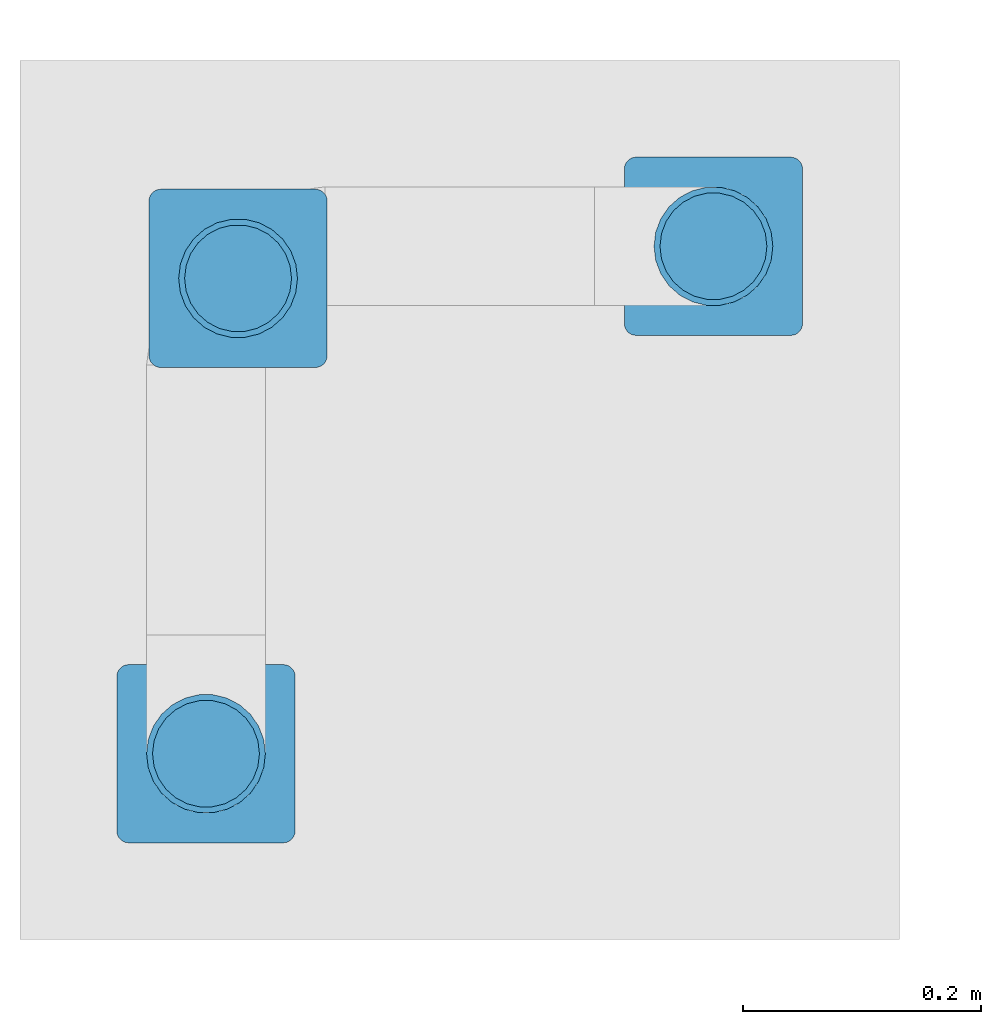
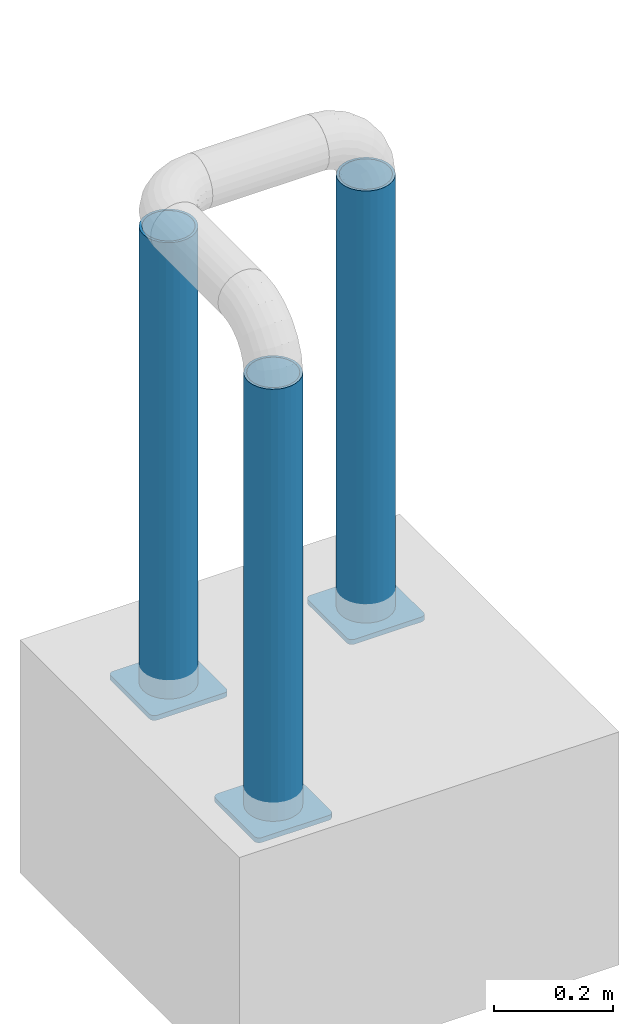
# One storey, part 68 of 418: 6 building element parts, 3 discrete accessories, 3 elements without a shape of their own.
"""IFC2X3 building model written with IfcOpenShell, lengths in millimetres."""

import ifcopenshell
import ifcopenshell.guid

model = None  # the IFC model being written
_history = None  # IfcOwnerHistory: only IFC2X3 demands one
_inside = {}  # id of a spatial element -> (the spatial element, [elements in it])
_under = {}  # id of a project, library or spatial element -> (it, [spatial elements below it])
_declared = {}  # id of a project -> (the project, [libraries it declares])
_typed = {}  # id of a type object -> (the type object, [elements of that type])
_made_of = {}  # id of a material, layer set ... -> (it, [elements and type objects made of it])


def new_model(schema):
    """Start an empty IFC model of exactly this schema.

    Asked for "IFC4X3", IfcOpenShell would pick the latest addendum, in which some entities
    have other attributes; the version numbers below select the first issue.
    IFC2X3 requires an IfcOwnerHistory on every rooted entity: one is made here for all.
    """
    global model, _history
    if schema == "IFC4X3":
        model = ifcopenshell.file(schema_version=(4, 3, 0, 0))
    else:
        model = ifcopenshell.file(schema=schema)
    _inside.clear()
    _under.clear()
    _declared.clear()
    _typed.clear()
    _made_of.clear()
    _history = None
    if model.schema == "IFC2X3":
        org = make("IfcOrganization", Name="unknown")
        user = make(
            "IfcPersonAndOrganization",
            ThePerson=make("IfcPerson", FamilyName="unknown"),
            TheOrganization=org,
        )
        app = make(
            "IfcApplication",
            ApplicationDeveloper=org,
            Version="unknown",
            ApplicationFullName="unknown",
            ApplicationIdentifier="unknown",
        )
        _history = make(
            "IfcOwnerHistory",
            OwningUser=user,
            OwningApplication=app,
            ChangeAction="ADDED",
            CreationDate=0,
        )
    return model


def make(cls, **values):
    """One entity of the class cls with the attributes given. An attribute that is None is left unset."""
    return model.create_entity(
        cls, **{name: value for name, value in values.items() if value is not None}
    )


def entity(cls, *values):
    """Any entity or typed value of the class cls, its attributes in the order of the schema. None: left unset."""
    e = model.create_entity(cls)
    for i, value in enumerate(values):
        if value is not None:
            e[i] = value
    return e


def rooted(cls, **values):
    """An entity with a GlobalId (a new one), such as an element, a storey or a relation."""
    return make(cls, GlobalId=ifcopenshell.guid.new(), OwnerHistory=_history, **values)


def si_unit(unit_type, name, prefix=None):
    """IfcSIUnit, for example si_unit("LENGTHUNIT", "METRE", prefix="MILLI")."""
    return make("IfcSIUnit", UnitType=unit_type, Prefix=prefix, Name=name)


def converted_unit(unit_type, name, factor, base, dimensions=None, offset=None):
    """IfcConversionBasedUnit, such as the inch: factor (a typed value) times the base unit."""
    return make(
        "IfcConversionBasedUnit"
        if offset is None
        else "IfcConversionBasedUnitWithOffset",
        ConversionOffset=offset,
        Dimensions=None
        if dimensions is None
        else entity("IfcDimensionalExponents", *dimensions),
        UnitType=unit_type,
        Name=name,
        ConversionFactor=make(
            "IfcMeasureWithUnit", ValueComponent=factor, UnitComponent=base
        ),
    )


def derived_unit(unit_type, elements):
    """IfcDerivedUnit: a product of units, each with its exponent."""
    return make(
        "IfcDerivedUnit",
        Elements=[
            make("IfcDerivedUnitElement", Unit=unit, Exponent=power)
            for unit, power in elements
        ],
        UnitType=unit_type,
    )


def money_unit(currency):
    """IfcMonetaryUnit."""
    return make("IfcMonetaryUnit", Currency=currency)


def assignment(units):
    """IfcUnitAssignment: the units of a project."""
    return None if units is None else make("IfcUnitAssignment", Units=units)


def point(xyz):
    """IfcCartesianPoint."""
    return None if xyz is None else make("IfcCartesianPoint", Coordinates=xyz)


def direction(xyz):
    """IfcDirection."""
    return None if xyz is None else make("IfcDirection", DirectionRatios=xyz)


def frame(location, z_axis=None, x_axis=None):
    """IfcAxis2Placement3D, a coordinate frame: its origin and axes. An axis left out is left unset."""
    return make(
        "IfcAxis2Placement3D",
        Location=point(location),
        Axis=direction(z_axis),
        RefDirection=direction(x_axis),
    )


def frame_2d(location, x_axis=None):
    """IfcAxis2Placement2D, a coordinate frame in the plane: its origin and x axis."""
    return make(
        "IfcAxis2Placement2D", Location=point(location), RefDirection=direction(x_axis)
    )


def origin_with_axes():
    """The frame at (0, 0, 0) with the z axis (0, 0, 1) and the x axis (1, 0, 0) written out."""
    return frame((0.0, 0.0, 0.0), z_axis=(0.0, 0.0, 1.0), x_axis=(1.0, 0.0, 0.0))


def origin_2d_with_axis():
    """The frame at (0, 0) in the plane with the x axis (1, 0) written out."""
    return frame_2d((0.0, 0.0), x_axis=(1.0, 0.0))


def place(relative_to, where):
    """IfcLocalPlacement: puts the frame where relative to a parent placement (None: the world)."""
    return make(
        "IfcLocalPlacement", PlacementRelTo=relative_to, RelativePlacement=where
    )


def context(
    kind, dimensions, precision=None, world=None, true_north=None, identifier=None
):
    """IfcGeometricRepresentationContext, for example the 3D "Model" context."""
    return make(
        "IfcGeometricRepresentationContext",
        ContextIdentifier=identifier,
        ContextType=kind,
        CoordinateSpaceDimension=dimensions,
        Precision=precision,
        WorldCoordinateSystem=world,
        TrueNorth=true_north,
    )


def subcontext(parent, identifier, kind, view, scale=None):
    """IfcGeometricRepresentationSubContext, for example "Body" below "Model"."""
    return make(
        "IfcGeometricRepresentationSubContext",
        ContextIdentifier=identifier,
        ContextType=kind,
        ParentContext=parent,
        TargetScale=scale,
        TargetView=view,
    )


def project(units=None, contexts=None):
    """IfcProject with its units and contexts."""
    return rooted(
        "IfcProject",
        Name="project",
        RepresentationContexts=contexts,
        UnitsInContext=assignment(units),
    )


def spatial(cls, under=None, at=None, **own):
    """A site, building, storey or space (cls), placed at a placement, below another one or the project."""
    s = rooted(cls, ObjectPlacement=at, **own)
    if under is not None:
        _under.setdefault(under.id(), (under, []))[1].append(s)
    return s


def polyline(points):
    """IfcPolyline through the points."""
    return make("IfcPolyline", Points=[point(p) for p in points])


def circle_curve(where, radius):
    """IfcCircle in the frame where."""
    return make("IfcCircle", Position=where, Radius=radius)


def parameter(value):
    """IfcParameterValue: where a trimmed curve begins or ends, as a parameter of its basis curve."""
    return model.create_entity("IfcParameterValue", value)


def trimmed(basis, trim1, trim2, sense, master):
    """IfcTrimmedCurve: the piece of a basis curve between two trims."""
    return make(
        "IfcTrimmedCurve",
        BasisCurve=basis,
        Trim1=trim1,
        Trim2=trim2,
        SenseAgreement=sense,
        MasterRepresentation=master,
    )


def segment(curve, same_sense, transition):
    """IfcCompositeCurveSegment."""
    return make(
        "IfcCompositeCurveSegment",
        Transition=transition,
        SameSense=same_sense,
        ParentCurve=curve,
    )


def composite_curve(segments, self_intersect=None):
    """IfcCompositeCurve: segments joined end to end."""
    return make("IfcCompositeCurve", Segments=segments, SelfIntersect=self_intersect)


def profile(cls, at=None, kind="AREA", **sizes):
    """A parametric profile (cls). Its sizes go by their IFC names, for example OverallWidth=200.0."""
    return make(cls, ProfileType=kind, Position=at, **sizes)


def circle(**sizes):
    """IfcCircleProfileDef."""
    return profile("IfcCircleProfileDef", **sizes)


def hollow_circle(**sizes):
    """IfcCircleHollowProfileDef."""
    return profile("IfcCircleHollowProfileDef", **sizes)


def outline(outer, holes=None, kind="AREA"):
    """IfcArbitraryClosedProfileDef: a profile drawn as a closed curve; with holes, ...WithVoids."""
    if holes is None:
        return make("IfcArbitraryClosedProfileDef", ProfileType=kind, OuterCurve=outer)
    return make(
        "IfcArbitraryProfileDefWithVoids",
        ProfileType=kind,
        OuterCurve=outer,
        InnerCurves=holes,
    )


def extrude(swept, where, along, depth):
    """IfcExtrudedAreaSolid: the profile swept, set in the frame where, extruded along a direction by depth."""
    return make(
        "IfcExtrudedAreaSolid",
        SweptArea=swept,
        Position=where,
        ExtrudedDirection=direction(along),
        Depth=depth,
    )


def shape(context_of_items, identifier, shape_type, items):
    """IfcShapeRepresentation: the items that make up one representation, for example the "Body"."""
    return make(
        "IfcShapeRepresentation",
        ContextOfItems=context_of_items,
        RepresentationIdentifier=identifier,
        RepresentationType=shape_type,
        Items=items,
    )


def material(Name=None, Category=None):
    """IfcMaterial."""
    return make("IfcMaterial", Name=Name, Category=Category)


def made_of(thing, what):
    """Note that an element or type object is made of a material, layer set ...; save() writes the relation."""
    if what is not None:
        _made_of.setdefault(what.id(), (what, []))[1].append(thing)
    return thing


def type_object(cls, material=None, **own):
    """A type object (cls), such as IfcWallType, which elements share."""
    return made_of(rooted(cls, **own), material)


def element(
    cls,
    number,
    at=None,
    inside=None,
    cuts=None,
    type_object=None,
    material=None,
    context=None,
    identifier="Body",
    shape_type=None,
    held_by="IfcProductDefinitionShape",
    body=None,
    shapes=None,
    **own,
):
    """One element of the class cls, such as IfcWall. Its Tag is "e" and its number.

    at: its placement. inside: the storey or other place that contains it. cuts: it is an
    opening in that element (IfcRelVoidsElement). A single representation is given by context,
    identifier, shape_type and body (its items); several are given by shapes. held_by: the class
    of the entity that holds the representations. save() writes the other relations.
    """
    e = rooted(cls, Tag="e%d" % number, ObjectPlacement=at, **own)
    if body is not None:
        shapes = [shape(context, identifier, shape_type, body)]
    if shapes is not None:
        e.Representation = make(held_by, Representations=shapes)
    if inside is not None:
        _inside.setdefault(inside.id(), (inside, []))[1].append(e)
    if cuts is not None:
        rooted(
            "IfcRelVoidsElement", RelatingBuildingElement=cuts, RelatedOpeningElement=e
        )
    if type_object is not None:
        _typed.setdefault(type_object.id(), (type_object, []))[1].append(e)
    return made_of(e, material)


def aggregate(whole, parts):
    """IfcRelAggregates: a whole, such as a stair, and the parts it consists of."""
    return rooted("IfcRelAggregates", RelatingObject=whole, RelatedObjects=parts)


def save(model, path):
    """Write the relations noted so far, then the file.

    IfcRelAggregates (storeys below a building ...), IfcRelContainedInSpatialStructure (elements
    in a storey), IfcRelDefinesByType, IfcRelAssociatesMaterial and IfcRelDeclares: one each for
    every whole, place, type object, material and project.
    """
    for whole, parts in _under.values():
        aggregate(whole, parts)
    for where, things in _inside.values():
        rooted(
            "IfcRelContainedInSpatialStructure",
            RelatedElements=things,
            RelatingStructure=where,
        )
    for kind, things in _typed.values():
        rooted("IfcRelDefinesByType", RelatedObjects=things, RelatingType=kind)
    for what, things in _made_of.values():
        rooted("IfcRelAssociatesMaterial", RelatedObjects=things, RelatingMaterial=what)
    for by, libraries in _declared.values():
        rooted("IfcRelDeclares", RelatingContext=by, RelatedDefinitions=libraries)
    model.write(path)


model = new_model("IFC2X3")

# Units and contexts
model_context = context("Model", 3, precision=0.01, world=origin_with_axes(), true_north=direction((0.0, 1.0)))
body_context = subcontext(model_context, "Body", "Model", "MODEL_VIEW")
ifc_project = project(units=[si_unit("LENGTHUNIT", "METRE", prefix="MILLI"), si_unit("AREAUNIT", "SQUARE_METRE"), si_unit("VOLUMEUNIT", "CUBIC_METRE"), converted_unit("PLANEANGLEUNIT", "DEGREE", entity("IfcPlaneAngleMeasure", 0.0174532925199), si_unit("PLANEANGLEUNIT", "RADIAN"), dimensions=[0, 0, 0, 0, 0, 0, 0]), si_unit("SOLIDANGLEUNIT", "STERADIAN"), money_unit("EUR"), converted_unit("TIMEUNIT", "Year", entity("IfcTimeMeasure", 31556926.0), si_unit("TIMEUNIT", "SECOND"), dimensions=[0, 0, 1, 0, 0, 0, 0]), si_unit("MASSUNIT", "GRAM", prefix="KILO"), si_unit("THERMODYNAMICTEMPERATUREUNIT", "DEGREE_CELSIUS"), si_unit("LUMINOUSINTENSITYUNIT", "LUMEN"), si_unit("ENERGYUNIT", "JOULE", prefix="MEGA"), derived_unit("THERMALCONDUCTANCEUNIT", [(si_unit("POWERUNIT", "WATT"), 1), (si_unit("LENGTHUNIT", "METRE"), -1), (si_unit("THERMODYNAMICTEMPERATUREUNIT", "KELVIN"), -1)]), derived_unit("SPECIFICHEATCAPACITYUNIT", [(si_unit("ENERGYUNIT", "JOULE"), 1), (si_unit("MASSUNIT", "GRAM", prefix="KILO"), -1), (si_unit("THERMODYNAMICTEMPERATUREUNIT", "KELVIN"), -1)]), derived_unit("MASSDENSITYUNIT", [(si_unit("MASSUNIT", "GRAM", prefix="KILO"), 1), (si_unit("VOLUMEUNIT", "CUBIC_METRE"), -1)])], contexts=[model_context])

# Site, building, storey
site_placement = place(None, origin_with_axes())
site = spatial("IfcSite", under=ifc_project, at=site_placement, Name="Paldiski mnt 245/1, Tallinn, Harjumaa", CompositionType="COMPLEX")
building_placement = place(site_placement, origin_with_axes())
building = spatial("IfcBuilding", under=site, at=building_placement, Name="RKAS Hoone üldnimetus (kasutust iseloomustav) -> IFC Project Manager -> SOLIBRI", CompositionType="ELEMENT")
storey_placement = place(building_placement, origin_with_axes())
storey = spatial("IfcBuildingStorey", under=building, at=storey_placement, Name="Esimene korrus", CompositionType="ELEMENT", Elevation=0.0)

# Discrete accessories
ifc_material_1 = material(Name="Teras")
discrete_accessory_type = type_object("IfcDiscreteAccessoryType", Name="Teras 10")
for number, where, z_axis, x_axis in (
    (1, (-64211.4993483, 36648.4999936, -790.0), (0.0, 0.0, 1.0), (1.0, 0.0, 0.0)),
    (2, (-64611.5006711, 36621.4999883, -790.0), (0.0, 0.0, 1.0), (1.0, 0.0, 0.0)),
    (3, (-64638.5006662, 36221.4999879, -790.0), (0.0, 0.0, 1.0), (1.0, 0.0, 0.0)),
):
    element("IfcDiscreteAccessory", number, at=place(storey_placement, frame(where, z_axis=z_axis, x_axis=x_axis)), inside=storey, type_object=discrete_accessory_type, material=ifc_material_1, Name="Kinnitus", context=body_context, shape_type="SweptSolid", body=[
        extrude(outline(composite_curve([segment(trimmed(circle_curve(frame_2d((-1.89174884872e-06, -9.99999881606), x_axis=(1.89174907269e-07, 1.0)), 9.99999881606), [point((0.0, 0.0)), parameter(0.0)], [point((-10.0000007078, -9.99999884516)), parameter(90.0000110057)], True, "CARTESIAN"), True, "CONTINUOUS"), segment(polyline([(-10.0000007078, -9.99999884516), (-9.99999884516, -140.00264369)]), True, "CONTINUOUS"), segment(trimmed(circle_curve(frame_2d((-0.00132201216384, -140.00132354), x_axis=(-0.999999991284, -0.000132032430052)), 9.99867692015), [point((-9.99999884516, -140.00264369)), parameter(0.0)], [point((9.31322574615e-07, -150.000000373)), parameter(90.0000160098)], True, "CARTESIAN"), True, "CONTINUOUS"), segment(polyline([(9.31322574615e-07, -150.000000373), (130.000001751, -149.999999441)]), True, "CONTINUOUS"), segment(trimmed(circle_curve(frame_2d((130.000001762, -139.999999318), x_axis=(-1.11659291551e-09, -1.0)), 10.0000001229), [point((130.000001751, -149.999999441)), parameter(0.0)], [point((140.000001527, -140.002673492)), parameter(89.9846781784)], True, "CARTESIAN"), True, "CONTINUOUS"), segment(polyline([(140.000001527, -140.002673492), (139.999999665, -9.99999791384)]), True, "CONTINUOUS"), segment(trimmed(circle_curve(frame_2d((129.99866344, -10.001335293), x_axis=(0.999999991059, 0.000133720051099)), 10.0013363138), [point((139.999999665, -9.99999791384)), parameter(0.0)], [point((130.00000082, 9.31322574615e-07)), parameter(89.9846768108)], True, "CARTESIAN"), True, "CONTINUOUS"), segment(polyline([(130.00000082, 9.31322574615e-07), (0.0, 0.0)]), True, "CONTINUOUS")], self_intersect=False)), frame((0.0, 0.0, -10.0), z_axis=(0.0, 0.0, 1.0), x_axis=(1.0, 0.0, 0.0)), (0.0, 0.0, 1.0), 10.0),
    ])

# Proxy, building element parts
building_element_proxy_type = type_object("IfcBuildingElementProxyType", Name="ET-03_Raud D100", PredefinedType="NOTDEFINED")
proxy_1_placement = place(storey_placement, frame((-64146.4993479, 36573.4999944, -790.0), z_axis=(0.0, 0.0, 1.0), x_axis=(1.0, 0.0, 0.0)))
proxy_1 = element("IfcBuildingElementProxy", 4, at=proxy_1_placement, inside=storey, type_object=building_element_proxy_type, Name="Pollar")
ifc_material_2 = material(Name="VV-00_GENEERILINE - VÄLINE VOODER")
building_element_part_1_placement = place(proxy_1_placement, origin_with_axes())
building_element_part_1 = element("IfcBuildingElementPart", 5, at=building_element_part_1_placement, material=ifc_material_2, Name="VV-00_GENEERILINE - VÄLINE VOODER", context=body_context, shape_type="SweptSolid", body=[
    extrude(hollow_circle(Radius=50.0, WallThickness=5.0, at=origin_2d_with_axis()), origin_with_axes(), (0.0, 0.0, 1.0), 890.0),
])
ifc_material_3 = material(Name="ET-03_Raud")
building_element_part_2_placement = place(proxy_1_placement, origin_with_axes())
building_element_part_2 = element("IfcBuildingElementPart", 6, at=building_element_part_2_placement, material=ifc_material_3, Name="ET-03_Raud", context=body_context, shape_type="SweptSolid", body=[
    extrude(circle(Radius=45.0, at=origin_2d_with_axis()), origin_with_axes(), (0.0, 0.0, 1.0), 890.0),
])
aggregate(proxy_1, [building_element_part_1, building_element_part_2])

proxy_2_placement = place(storey_placement, frame((-64546.5006707, 36546.4999899, -790.0), z_axis=(0.0, 0.0, 1.0), x_axis=(1.0, 0.0, 0.0)))
proxy_2 = element("IfcBuildingElementProxy", 7, at=proxy_2_placement, inside=storey, type_object=building_element_proxy_type, Name="Pollar")
building_element_part_3_placement = place(proxy_2_placement, origin_with_axes())
building_element_part_3 = element("IfcBuildingElementPart", 8, at=building_element_part_3_placement, material=ifc_material_2, Name="VV-00_GENEERILINE - VÄLINE VOODER", context=body_context, shape_type="SweptSolid", body=[
    extrude(hollow_circle(Radius=50.0, WallThickness=5.0, at=origin_2d_with_axis()), origin_with_axes(), (0.0, 0.0, 1.0), 940.0),
])
building_element_part_4_placement = place(proxy_2_placement, origin_with_axes())
building_element_part_4 = element("IfcBuildingElementPart", 9, at=building_element_part_4_placement, material=ifc_material_3, Name="ET-03_Raud", context=body_context, shape_type="SweptSolid", body=[
    extrude(circle(Radius=45.0, at=origin_2d_with_axis()), origin_with_axes(), (0.0, 0.0, 1.0), 940.0),
])
aggregate(proxy_2, [building_element_part_3, building_element_part_4])

proxy_3_placement = place(storey_placement, frame((-64573.5006649, 36146.4999905, -790.0), z_axis=(0.0, 0.0, 1.0), x_axis=(1.0, 0.0, 0.0)))
proxy_3 = element("IfcBuildingElementProxy", 10, at=proxy_3_placement, inside=storey, type_object=building_element_proxy_type, Name="Pollar")
building_element_part_5_placement = place(proxy_3_placement, origin_with_axes())
building_element_part_5 = element("IfcBuildingElementPart", 11, at=building_element_part_5_placement, material=ifc_material_2, Name="VV-00_GENEERILINE - VÄLINE VOODER", context=body_context, shape_type="SweptSolid", body=[
    extrude(hollow_circle(Radius=50.0, WallThickness=5.0, at=origin_2d_with_axis()), origin_with_axes(), (0.0, 0.0, 1.0), 890.0),
])
building_element_part_6_placement = place(proxy_3_placement, origin_with_axes())
building_element_part_6 = element("IfcBuildingElementPart", 12, at=building_element_part_6_placement, material=ifc_material_3, Name="ET-03_Raud", context=body_context, shape_type="SweptSolid", body=[
    extrude(circle(Radius=45.0, at=origin_2d_with_axis()), origin_with_axes(), (0.0, 0.0, 1.0), 890.0),
])
aggregate(proxy_3, [building_element_part_5, building_element_part_6])

save(model, "model.ifc")
